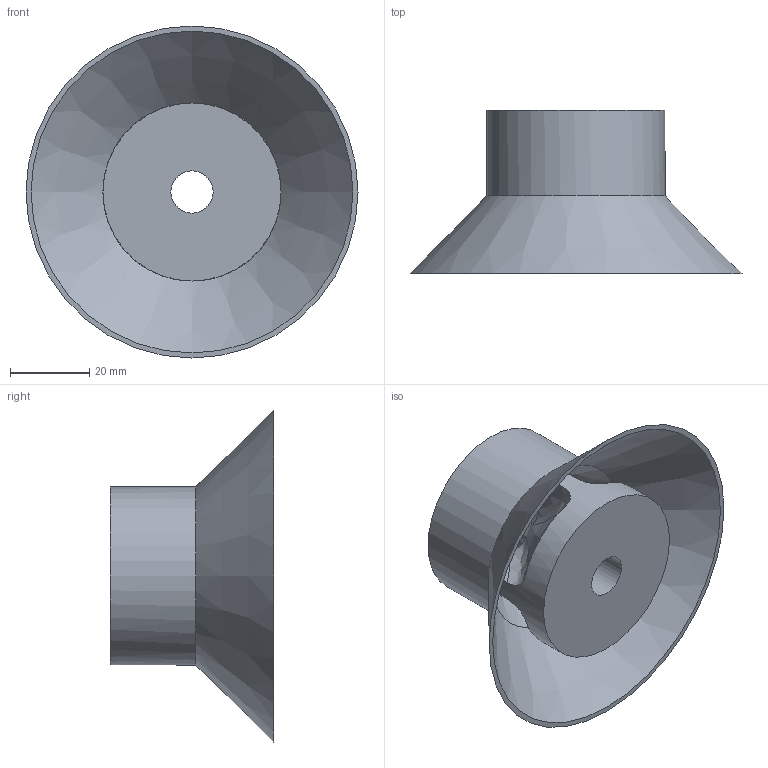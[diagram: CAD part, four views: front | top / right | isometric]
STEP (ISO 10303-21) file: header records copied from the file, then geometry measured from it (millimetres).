
FILE_DESCRIPTION(/* description */ (''),/* implementation_level */ '2;1');
FILE_NAME(/* name */ 'C:/Users/Owner/Desktop/KCAD 3Dp Fuel Filter Baffles Gen1/STEP Versions/1.77DIAx1.624 High Baffles STEP/1.77 Dia 42 CAL Baffle STEP.step',/* time_stamp */ '2019-05-22T19:26:45-04:00',/* author */ (''),/* organization */ (''),/* preprocessor_version */ 'ST-DEVELOPER v18',/* originating_system */ 'Autodesk Translation Framework v8.2.0.1029',/* authorisation */ '');
FILE_SCHEMA (('AUTOMOTIVE_DESIGN { 1 0 10303 214 3 1 1 }'));
Length unit declared in the file: inch
Products named in the file (1): 1.77 dia 1.624 high 42 cal
Bounding box: 83.82 x 41.25 x 83.82 mm (x, y, z)
Volume: 51552.4 mm3; surface area: 24275 mm2
Topology: 1 solids, 1 shells, 32 faces, 114 edges, 77 vertices
Faces by surface type: bspline 14, plane 11, cylinder 4, cone 2, torus 1
Full cylindrical faces by diameter (mm): 10.668 x2, 44.958 x2
Entity records: 2029 total; most frequent: CARTESIAN_POINT 1146, ORIENTED_EDGE 228, DIRECTION 116, EDGE_CURVE 114, VERTEX_POINT 77, B_SPLINE_CURVE_WITH_KNOTS 66, AXIS2_PLACEMENT_3D 51, EDGE_LOOP 35
